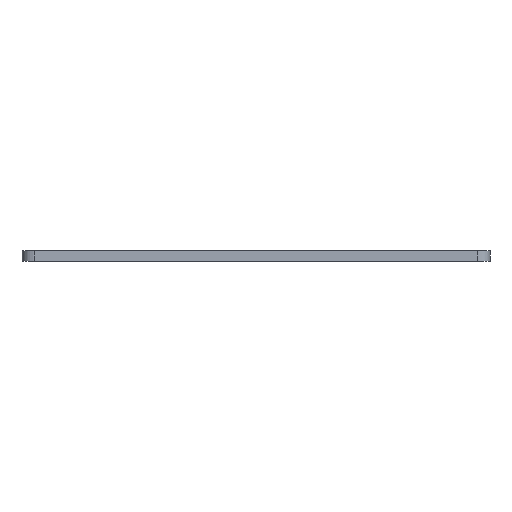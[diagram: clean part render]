
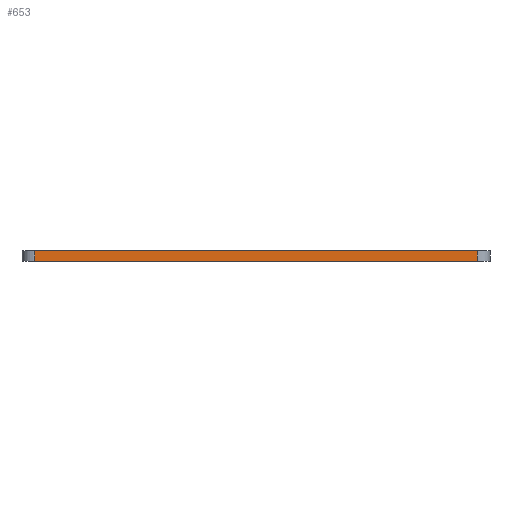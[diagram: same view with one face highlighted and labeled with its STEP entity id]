
A CAD part, left-side view. The second image highlights one B-rep face of the part: STEP entity #653.
In plain terms, the highlighted planar face has unit normal (-1, 0, 0).
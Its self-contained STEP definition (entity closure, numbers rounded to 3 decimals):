
#43 = VERTEX_POINT('',#44);
#44 = CARTESIAN_POINT('',(100.,192.,230.5));
#51 = EDGE_CURVE('',#52,#43,#54,.T.);
#52 = VERTEX_POINT('',#53);
#53 = CARTESIAN_POINT('',(100.,106.,230.5));
#54 = LINE('',#55,#56);
#55 = CARTESIAN_POINT('',(100.,103.5,230.5));
#56 = VECTOR('',#57,1.);
#57 = DIRECTION('',(0.,1.,0.));
#608 = VERTEX_POINT('',#609);
#609 = CARTESIAN_POINT('',(100.,192.,228.5));
#618 = EDGE_CURVE('',#608,#43,#619,.T.);
#619 = LINE('',#620,#621);
#620 = CARTESIAN_POINT('',(100.,192.,228.5));
#621 = VECTOR('',#622,1.);
#622 = DIRECTION('',(0.,0.,1.));
#653 = ADVANCED_FACE('',(#654),#672,.F.);
#654 = FACE_BOUND('',#655,.F.);
#655 = EDGE_LOOP('',(#656,#657,#665,#671));
#656 = ORIENTED_EDGE('',*,*,#51,.F.);
#657 = ORIENTED_EDGE('',*,*,#658,.F.);
#658 = EDGE_CURVE('',#659,#52,#661,.T.);
#659 = VERTEX_POINT('',#660);
#660 = CARTESIAN_POINT('',(100.,106.,228.5));
#661 = LINE('',#662,#663);
#662 = CARTESIAN_POINT('',(100.,106.,228.5));
#663 = VECTOR('',#664,1.);
#664 = DIRECTION('',(0.,0.,1.));
#665 = ORIENTED_EDGE('',*,*,#666,.T.);
#666 = EDGE_CURVE('',#659,#608,#667,.T.);
#667 = LINE('',#668,#669);
#668 = CARTESIAN_POINT('',(100.,103.5,228.5));
#669 = VECTOR('',#670,1.);
#670 = DIRECTION('',(0.,1.,0.));
#671 = ORIENTED_EDGE('',*,*,#618,.T.);
#672 = PLANE('',#673);
#673 = AXIS2_PLACEMENT_3D('',#674,#675,#676);
#674 = CARTESIAN_POINT('',(100.,103.5,228.5));
#675 = DIRECTION('',(1.,0.,0.));
#676 = DIRECTION('',(0.,0.,1.));
